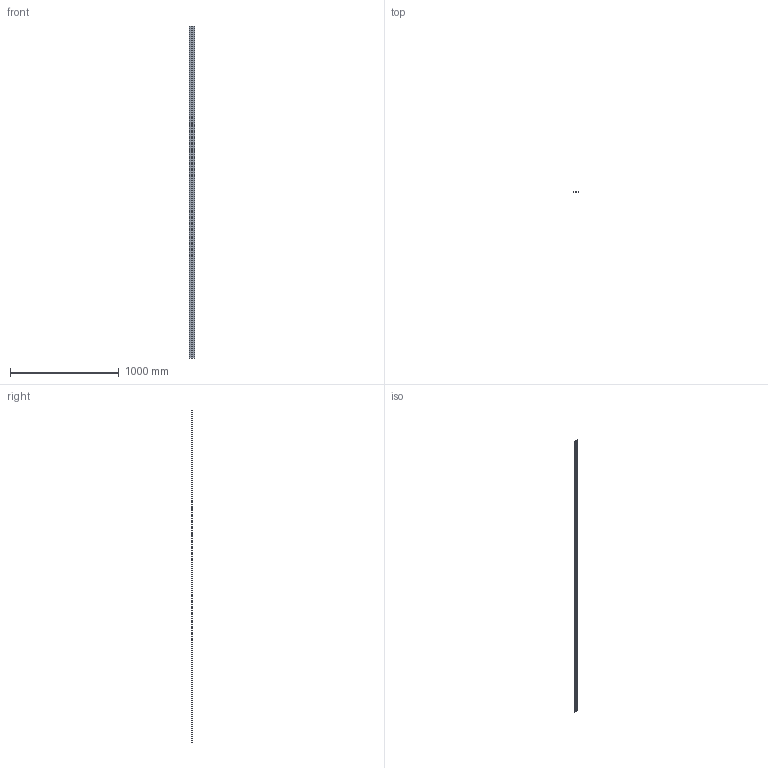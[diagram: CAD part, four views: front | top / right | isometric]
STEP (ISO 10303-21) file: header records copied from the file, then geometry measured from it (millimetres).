
FILE_DESCRIPTION(/* description */ (''),/* implementation_level */ '2;1');
FILE_NAME(/* name */ 'M10I.stp',/* time_stamp */ '2025-02-27T13:57:49-05:00',/* author */ ('samuel.gauthier'),/* organization */ (''),/* preprocessor_version */ 'ST-DEVELOPER v20',/* originating_system */ 'Autodesk Inventor 2025',/* authorisation */ '');
FILE_SCHEMA (('AUTOMOTIVE_DESIGN { 1 0 10303 214 3 1 1 }'));
Length unit declared in the file: inch
Products named in the file (1): M10I
Bounding box: 47.13 x 3.56 x 3048 mm (x, y, z)
Volume: 125143 mm3; surface area: 496748.9 mm2
Topology: 1 solids, 1 shells, 20 faces, 54 edges, 36 vertices
Faces by surface type: plane 15, cylinder 5
Entity records: 673 total; most frequent: CARTESIAN_POINT 111, ORIENTED_EDGE 108, DIRECTION 106, EDGE_CURVE 54, LINE 44, VECTOR 44, VERTEX_POINT 36, AXIS2_PLACEMENT_3D 31
